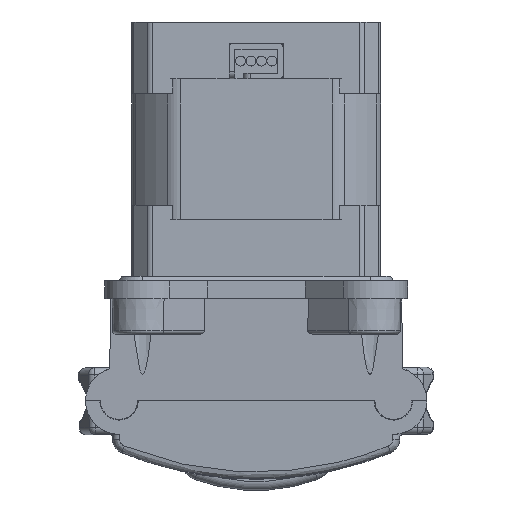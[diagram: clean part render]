
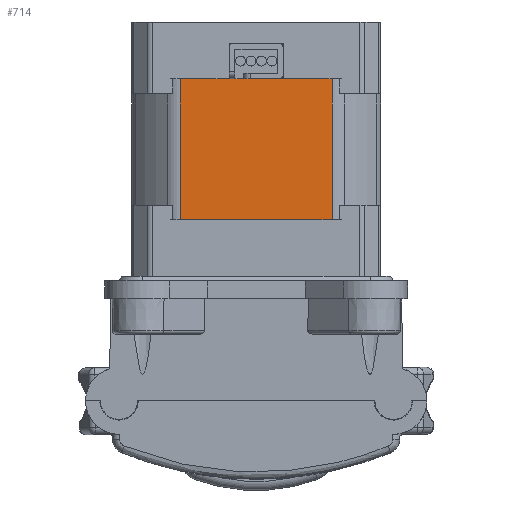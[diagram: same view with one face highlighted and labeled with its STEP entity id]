
A CAD part, front view. The second image highlights one B-rep face of the part: STEP entity #714.
In plain terms, the highlighted planar face has unit normal (0, -1, 0) as drawn and (1, 0, 0) by its records, which use the part's own axes.
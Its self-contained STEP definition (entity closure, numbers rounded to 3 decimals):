
#383 = EDGE_CURVE ( 'NONE', #27867, #23945, #16727, .T. ) ;
#714 = ADVANCED_FACE ( 'NONE', ( #12040 ), #30834, .T. ) ;
#836 = ORIENTED_EDGE ( 'NONE', *, *, #13693, .T. ) ;
#1489 = ORIENTED_EDGE ( 'NONE', *, *, #14385, .T. ) ;
#1638 = AXIS2_PLACEMENT_3D ( 'NONE', #2796, #40369, #49014 ) ;
#1700 = CARTESIAN_POINT ( 'NONE',  ( 17.5, -10.665, -8. ) ) ;
#2082 = CARTESIAN_POINT ( 'NONE',  ( 17.5, 3.8, -27.8 ) ) ;
#2796 = CARTESIAN_POINT ( 'NONE',  ( 17.5, 14.586, -8. ) ) ;
#3442 = VERTEX_POINT ( 'NONE', #10537 ) ;
#4049 = CARTESIAN_POINT ( 'NONE',  ( 17.5, -3.2, -27.8 ) ) ;
#4524 = LINE ( 'NONE', #28251, #47377 ) ;
#5026 = CARTESIAN_POINT ( 'NONE',  ( 17.5, 14.586, -27.8 ) ) ;
#6696 = ORIENTED_EDGE ( 'NONE', *, *, #20340, .F. ) ;
#6919 = VECTOR ( 'NONE', #35295, 1000. ) ;
#10398 = LINE ( 'NONE', #2082, #42574 ) ;
#10537 = CARTESIAN_POINT ( 'NONE',  ( 17.5, 3., -27.8 ) ) ;
#10983 = EDGE_CURVE ( 'NONE', #36959, #41747, #55667, .T. ) ;
#11389 = VECTOR ( 'NONE', #40902, 1000. ) ;
#12040 = FACE_OUTER_BOUND ( 'NONE', #24372, .T. ) ;
#12526 = VECTOR ( 'NONE', #19157, 1000. ) ;
#12712 = DIRECTION ( 'NONE',  ( 0., -1., 0. ) ) ;
#13693 = EDGE_CURVE ( 'NONE', #39014, #36959, #13957, .T. ) ;
#13957 = LINE ( 'NONE', #5026, #21630 ) ;
#14385 = EDGE_CURVE ( 'NONE', #35746, #32664, #48862, .T. ) ;
#15779 = EDGE_CURVE ( 'NONE', #35746, #41747, #4524, .T. ) ;
#15844 = CARTESIAN_POINT ( 'NONE',  ( 17.5, 3.8, -27.8 ) ) ;
#16612 = VECTOR ( 'NONE', #12712, 1000. ) ;
#16727 = LINE ( 'NONE', #54323, #16612 ) ;
#16820 = CARTESIAN_POINT ( 'NONE',  ( 17.5, 1.8, -27.8 ) ) ;
#19157 = DIRECTION ( 'NONE',  ( 0., 1., 0. ) ) ;
#20340 = EDGE_CURVE ( 'NONE', #37878, #27867, #10398, .T. ) ;
#21132 = CARTESIAN_POINT ( 'NONE',  ( 17.5, 14.586, -27.8 ) ) ;
#21581 = DIRECTION ( 'NONE',  ( 0., -1., 0. ) ) ;
#21630 = VECTOR ( 'NONE', #28451, 1000. ) ;
#22628 = ORIENTED_EDGE ( 'NONE', *, *, #25130, .T. ) ;
#23945 = VERTEX_POINT ( 'NONE', #25086 ) ;
#24372 = EDGE_LOOP ( 'NONE', ( #22628, #26726, #6696, #44277, #28304, #836, #31319, #45166, #1489 ) ) ;
#25086 = CARTESIAN_POINT ( 'NONE',  ( 17.5, -3.8, -27.8 ) ) ;
#25130 = EDGE_CURVE ( 'NONE', #32664, #23945, #27817, .T. ) ;
#25431 = CARTESIAN_POINT ( 'NONE',  ( 17.5, -10.665, -27.8 ) ) ;
#26235 = LINE ( 'NONE', #31445, #47774 ) ;
#26726 = ORIENTED_EDGE ( 'NONE', *, *, #383, .F. ) ;
#27808 = LINE ( 'NONE', #41952, #12526 ) ;
#27817 = LINE ( 'NONE', #21132, #49376 ) ;
#27867 = VERTEX_POINT ( 'NONE', #4049 ) ;
#28251 = CARTESIAN_POINT ( 'NONE',  ( 17.5, 14.586, -8. ) ) ;
#28304 = ORIENTED_EDGE ( 'NONE', *, *, #49231, .T. ) ;
#28451 = DIRECTION ( 'NONE',  ( 0., 1., 0. ) ) ;
#30834 = PLANE ( 'NONE',  #1638 ) ;
#31319 = ORIENTED_EDGE ( 'NONE', *, *, #10983, .T. ) ;
#31445 = CARTESIAN_POINT ( 'NONE',  ( 17.5, 3.8, -27.8 ) ) ;
#32664 = VERTEX_POINT ( 'NONE', #44836 ) ;
#35295 = DIRECTION ( 'NONE',  ( 0., 0., -1. ) ) ;
#35746 = VERTEX_POINT ( 'NONE', #1700 ) ;
#36959 = VERTEX_POINT ( 'NONE', #42960 ) ;
#37878 = VERTEX_POINT ( 'NONE', #16820 ) ;
#39014 = VERTEX_POINT ( 'NONE', #15844 ) ;
#40369 = DIRECTION ( 'NONE',  ( 1., 0., 0. ) ) ;
#40902 = DIRECTION ( 'NONE',  ( 0., 0., 1. ) ) ;
#41673 = DIRECTION ( 'NONE',  ( 0., 1., 0. ) ) ;
#41747 = VERTEX_POINT ( 'NONE', #52261 ) ;
#41952 = CARTESIAN_POINT ( 'NONE',  ( 17.5, 3., -27.8 ) ) ;
#42574 = VECTOR ( 'NONE', #43985, 1000. ) ;
#42960 = CARTESIAN_POINT ( 'NONE',  ( 17.5, 10.665, -27.8 ) ) ;
#43985 = DIRECTION ( 'NONE',  ( 0., -1., 0. ) ) ;
#44277 = ORIENTED_EDGE ( 'NONE', *, *, #44291, .F. ) ;
#44291 = EDGE_CURVE ( 'NONE', #3442, #37878, #26235, .T. ) ;
#44836 = CARTESIAN_POINT ( 'NONE',  ( 17.5, -10.665, -27.8 ) ) ;
#45166 = ORIENTED_EDGE ( 'NONE', *, *, #15779, .F. ) ;
#47377 = VECTOR ( 'NONE', #55673, 1000. ) ;
#47774 = VECTOR ( 'NONE', #21581, 1000. ) ;
#48862 = LINE ( 'NONE', #25431, #6919 ) ;
#49014 = DIRECTION ( 'NONE',  ( 0., 1., 0. ) ) ;
#49231 = EDGE_CURVE ( 'NONE', #3442, #39014, #27808, .T. ) ;
#49376 = VECTOR ( 'NONE', #41673, 1000. ) ;
#52261 = CARTESIAN_POINT ( 'NONE',  ( 17.5, 10.665, -8. ) ) ;
#54323 = CARTESIAN_POINT ( 'NONE',  ( 17.5, 3.8, -27.8 ) ) ;
#55667 = LINE ( 'NONE', #60609, #11389 ) ;
#55673 = DIRECTION ( 'NONE',  ( 0., 1., 0. ) ) ;
#60609 = CARTESIAN_POINT ( 'NONE',  ( 17.5, 10.665, -8. ) ) ;
